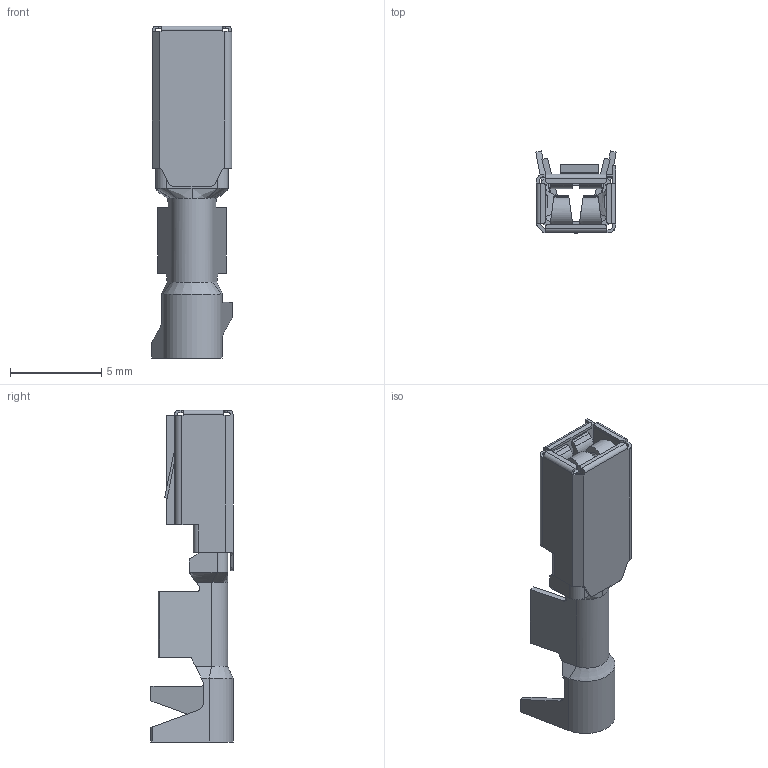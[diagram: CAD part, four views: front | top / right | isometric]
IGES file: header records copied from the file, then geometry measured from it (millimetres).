
Start section:  PTC IGES file: c-968075-2-b3-3d.igs
Global section: file name: c-968075-2-b3-3d.igs; native system: Pro/ENGINEER by Parametric Technology Corporation; preprocessor: 2005450; author: workeradm; organization: Unknown; date: 081001.040213; units: millimetre
Bounding box: 4.41 x 4.5 x 18.2 mm (x, y, z)
Surface area: 527.6 mm2 (no closed solid volume)
Topology: 0 solids, 0 shells, 236 faces, 1354 edges, 1354 vertices
Faces by surface type: bspline 166, revolution 70
